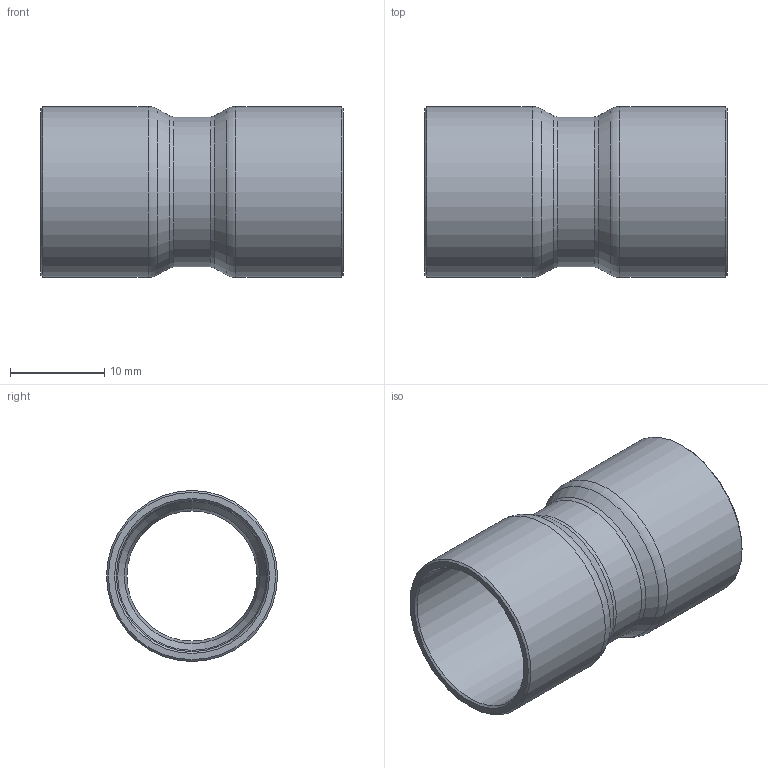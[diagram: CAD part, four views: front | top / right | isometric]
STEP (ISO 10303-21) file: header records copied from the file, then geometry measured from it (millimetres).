
FILE_DESCRIPTION((''),'2;1');
FILE_NAME('G:\SANHA-Ternat\Technik\Management\Bouwmaten + markeringen\z-maattekeningen 3D\29000s\2927058_3d.stp','2017-08-08T09:16:15',('vdvijverd'),(''),'Autodesk Inventor 2009','Autodesk Inventor 2009','');
FILE_SCHEMA(('AUTOMOTIVE_DESIGN { 1 0 10303 214 1 1 1 1 }'));
Length unit declared in the file: millimetre
Products named in the file (1): 2927058_3d
Bounding box: 32 x 18.1 x 18.1 mm (x, y, z)
Volume: 1777.7 mm3; surface area: 3475.7 mm2
Topology: 1 solids, 1 shells, 24 faces, 46 edges, 24 vertices
Faces by surface type: cone 8, cylinder 6, torus 4, bspline 4, plane 2
Full cylindrical faces by diameter (mm): 13.775 x1, 15.875 x1, 15.995 x2, 18.1 x2
Entity records: 674 total; most frequent: CARTESIAN_POINT 249, DIRECTION 90, ORIENTED_EDGE 48, EDGE_LOOP 48, AXIS2_PLACEMENT_3D 45, VERTEX_POINT 24, CIRCLE 24, EDGE_CURVE 24
